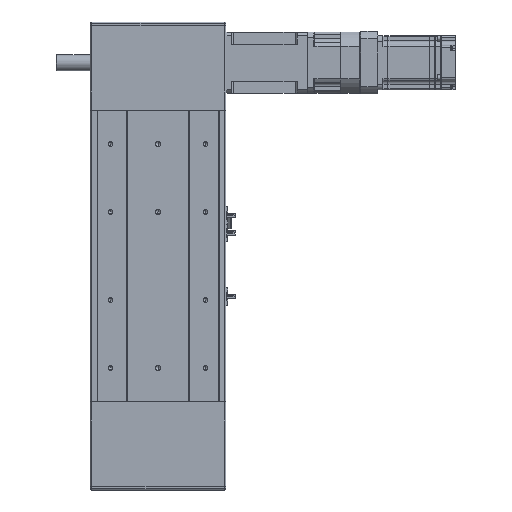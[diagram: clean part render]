
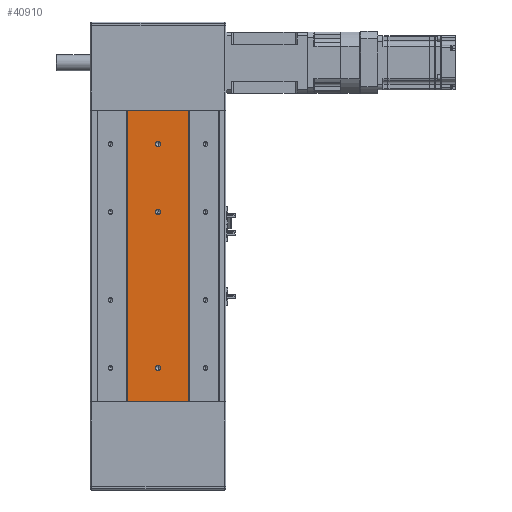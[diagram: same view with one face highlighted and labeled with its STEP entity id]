
A CAD part, front view. The second image highlights one B-rep face of the part: STEP entity #40910.
In plain terms, the highlighted planar face has unit normal (0, -1, 0).
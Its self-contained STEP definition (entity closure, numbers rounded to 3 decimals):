
#6860=CARTESIAN_POINT('',(-45.031,-67.,-215.));
#6870=VERTEX_POINT('',#6860);
#6900=CARTESIAN_POINT('',(44.969,-67.,-215.));
#6910=DIRECTION('',(-1.,0.,0.));
#6920=VECTOR('',#6910,1.);
#6930=LINE('',#6900,#6920);
#6940=CARTESIAN_POINT('',(44.969,-67.,-215.));
#6950=VERTEX_POINT('',#6940);
#6960=EDGE_CURVE('',#6950,#6870,#6930,.T.);
#22490=CARTESIAN_POINT('',(44.969,-67.,215.));
#22500=VERTEX_POINT('',#22490);
#22530=CARTESIAN_POINT('',(44.969,-67.,215.));
#22540=DIRECTION('',(-1.,0.,0.));
#22550=VECTOR('',#22540,1.);
#22560=LINE('',#22530,#22550);
#22570=CARTESIAN_POINT('',(-45.031,-67.,215.));
#22580=VERTEX_POINT('',#22570);
#22590=EDGE_CURVE('',#22500,#22580,#22560,.T.);
#40180=CARTESIAN_POINT('',(44.969,-67.,-215.));
#40190=DIRECTION('',(0.,0.,1.));
#40200=VECTOR('',#40190,1.);
#40210=LINE('',#40180,#40200);
#40220=EDGE_CURVE('',#6950,#22500,#40210,.T.);
#40300=CARTESIAN_POINT('',(0.,-67.,215.));
#40310=DIRECTION('',(0.,1.,0.));
#40320=DIRECTION('',(0.,0.,1.));
#40330=AXIS2_PLACEMENT_3D('',#40300,#40310,#40320);
#40340=PLANE('',#40330);
#40350=CARTESIAN_POINT('',(-45.031,-67.,-215.));
#40360=DIRECTION('',(0.,0.,1.));
#40370=VECTOR('',#40360,1.);
#40380=LINE('',#40350,#40370);
#40390=EDGE_CURVE('',#6870,#22580,#40380,.T.);
#40400=ORIENTED_EDGE('',*,*,#40390,.F.);
#40410=ORIENTED_EDGE('',*,*,#22590,.T.);
#40420=ORIENTED_EDGE('',*,*,#40220,.T.);
#40430=ORIENTED_EDGE('',*,*,#6960,.F.);
#40440=EDGE_LOOP('',(#40430,#40420,#40410,#40400));
#40450=FACE_OUTER_BOUND('',#40440,.T.);
#40460=CARTESIAN_POINT('',(-0.031,-67.,165.));
#40470=DIRECTION('',(0.,1.,0.));
#40480=DIRECTION('',(0.,0.,-1.));
#40490=AXIS2_PLACEMENT_3D('',#40460,#40470,#40480);
#40500=CIRCLE('',#40490,4.);
#40510=CARTESIAN_POINT('',(-0.031,-67.,161.));
#40520=VERTEX_POINT('',#40510);
#40530=CARTESIAN_POINT('',(-0.031,-67.,169.));
#40540=VERTEX_POINT('',#40530);
#40550=EDGE_CURVE('',#40520,#40540,#40500,.T.);
#40560=ORIENTED_EDGE('',*,*,#40550,.T.);
#40570=EDGE_CURVE('',#40540,#40520,#40500,.T.);
#40580=ORIENTED_EDGE('',*,*,#40570,.T.);
#40590=EDGE_LOOP('',(#40580,#40560));
#40600=FACE_BOUND('',#40590,.T.);
#40610=CARTESIAN_POINT('',(-0.031,-67.,65.));
#40620=DIRECTION('',(0.,1.,0.));
#40630=DIRECTION('',(0.,0.,-1.));
#40640=AXIS2_PLACEMENT_3D('',#40610,#40620,#40630);
#40650=CIRCLE('',#40640,4.);
#40660=CARTESIAN_POINT('',(-0.031,-67.,69.));
#40670=VERTEX_POINT('',#40660);
#40680=CARTESIAN_POINT('',(-0.031,-67.,61.));
#40690=VERTEX_POINT('',#40680);
#40700=EDGE_CURVE('',#40670,#40690,#40650,.T.);
#40710=ORIENTED_EDGE('',*,*,#40700,.T.);
#40720=EDGE_CURVE('',#40690,#40670,#40650,.T.);
#40730=ORIENTED_EDGE('',*,*,#40720,.T.);
#40740=EDGE_LOOP('',(#40730,#40710));
#40750=FACE_BOUND('',#40740,.T.);
#40760=CARTESIAN_POINT('',(-0.031,-67.,-165.))
;
#40770=DIRECTION('',(0.,1.,0.));
#40780=DIRECTION('',(0.,0.,-1.));
#40790=AXIS2_PLACEMENT_3D('',#40760,#40770,#40780);
#40800=CIRCLE('',#40790,4.);
#40810=CARTESIAN_POINT('',(-0.031,-67.,-169.))
;
#40820=VERTEX_POINT('',#40810);
#40830=CARTESIAN_POINT('',(-0.031,-67.,-161.))
;
#40840=VERTEX_POINT('',#40830);
#40850=EDGE_CURVE('',#40820,#40840,#40800,.T.);
#40860=ORIENTED_EDGE('',*,*,#40850,.T.);
#40870=EDGE_CURVE('',#40840,#40820,#40800,.T.);
#40880=ORIENTED_EDGE('',*,*,#40870,.T.);
#40890=EDGE_LOOP('',(#40880,#40860));
#40900=FACE_BOUND('',#40890,.T.);
#40910=ADVANCED_FACE('',(#40450,#40600,#40750,#40900),#40340,.F.);
